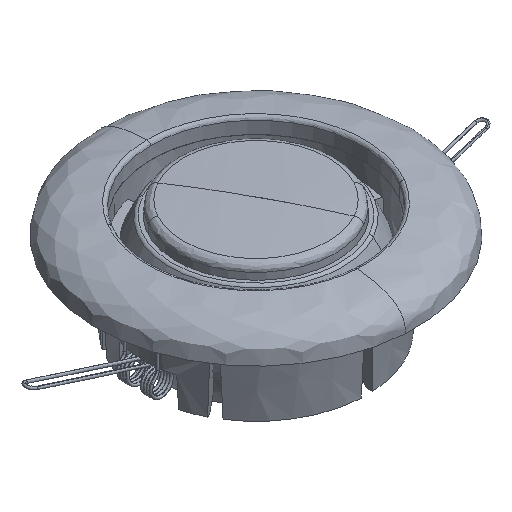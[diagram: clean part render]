
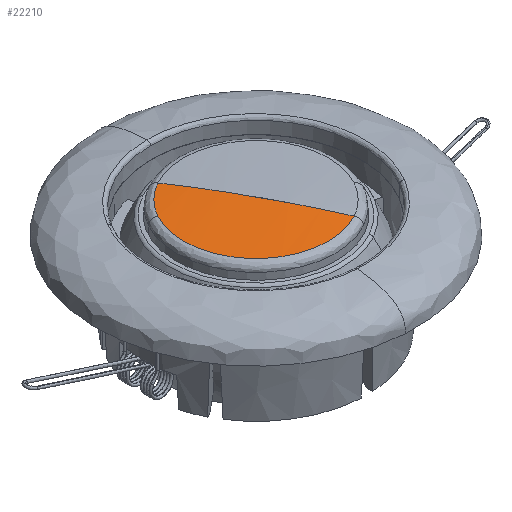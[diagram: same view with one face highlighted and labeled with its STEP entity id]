
A CAD part, isometric view. The second image highlights one B-rep face of the part: STEP entity #22210.
In plain terms, the highlighted spherical face has radius 302 mm.
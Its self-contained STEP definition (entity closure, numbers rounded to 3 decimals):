
#22155=AXIS2_PLACEMENT_3D('Sphere Axis2P3D',#22152,#22153,#22154) ;
#22159=AXIS2_PLACEMENT_3D('Circle Axis2P3D',#22157,#22158,$) ;
#22168=AXIS2_PLACEMENT_3D('Circle Axis2P3D',#22166,#22167,$) ;
#22194=AXIS2_PLACEMENT_3D('Circle Axis2P3D',#22192,#22193,$) ;
#22201=AXIS2_PLACEMENT_3D('Circle Axis2P3D',#22199,#22200,$) ;
#22152=CARTESIAN_POINT('Axis2P3D Location',(0.,0.,-282.737)) ;
#22157=CARTESIAN_POINT('Axis2P3D Location',(0.,0.,-282.737)) ;
#22161=CARTESIAN_POINT('Vertex',(0.,0.,19.263)) ;
#22163=CARTESIAN_POINT('Vertex',(-9.351,17.116,18.633)) ;
#22166=CARTESIAN_POINT('Axis2P3D Location',(0.,0.,-282.737)) ;
#22170=CARTESIAN_POINT('Vertex',(9.351,-17.116,18.633)) ;
#22192=CARTESIAN_POINT('Axis2P3D Location',(0.,0.,18.633)) ;
#22196=CARTESIAN_POINT('Vertex',(-17.116,9.351,18.633)) ;
#22199=CARTESIAN_POINT('Axis2P3D Location',(0.,0.,18.633)) ;
#22153=DIRECTION('Axis2P3D Direction',(0.,0.,1.)) ;
#22154=DIRECTION('Axis2P3D XDirection',(0.479,-0.878,0.)) ;
#22158=DIRECTION('Axis2P3D Direction',(0.878,0.479,0.)) ;
#22167=DIRECTION('Axis2P3D Direction',(-0.878,-0.479,0.)) ;
#22193=DIRECTION('Axis2P3D Direction',(0.,0.,1.)) ;
#22200=DIRECTION('Axis2P3D Direction',(0.,0.,1.)) ;
#22205=ORIENTED_EDGE('',*,*,#22172,.F.) ;
#22206=ORIENTED_EDGE('',*,*,#22165,.T.) ;
#22207=ORIENTED_EDGE('',*,*,#22198,.F.) ;
#22208=ORIENTED_EDGE('',*,*,#22203,.F.) ;
#22210=ADVANCED_FACE('Housing_gr',(#22209),#22156,.T.) ;
#22160=CIRCLE('generated circle',#22159,302.) ;
#22169=CIRCLE('generated circle',#22168,302.) ;
#22195=CIRCLE('generated circle',#22194,19.504) ;
#22202=CIRCLE('generated circle',#22201,19.504) ;
#22165=EDGE_CURVE('',#22162,#22164,#22160,.F.) ;
#22172=EDGE_CURVE('',#22162,#22171,#22169,.F.) ;
#22198=EDGE_CURVE('',#22197,#22164,#22195,.F.) ;
#22203=EDGE_CURVE('',#22171,#22197,#22202,.F.) ;
#22204=EDGE_LOOP('',(#22205,#22206,#22207,#22208)) ;
#22209=FACE_OUTER_BOUND('',#22204,.T.) ;
#22156=SPHERICAL_SURFACE('',#22155,302.) ;
#22162=VERTEX_POINT('',#22161) ;
#22164=VERTEX_POINT('',#22163) ;
#22171=VERTEX_POINT('',#22170) ;
#22197=VERTEX_POINT('',#22196) ;
